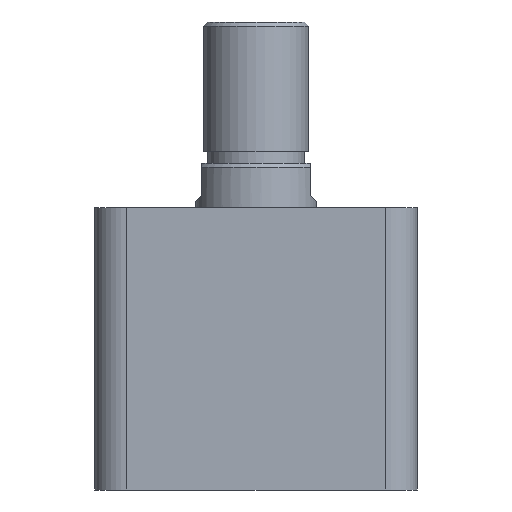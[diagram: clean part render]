
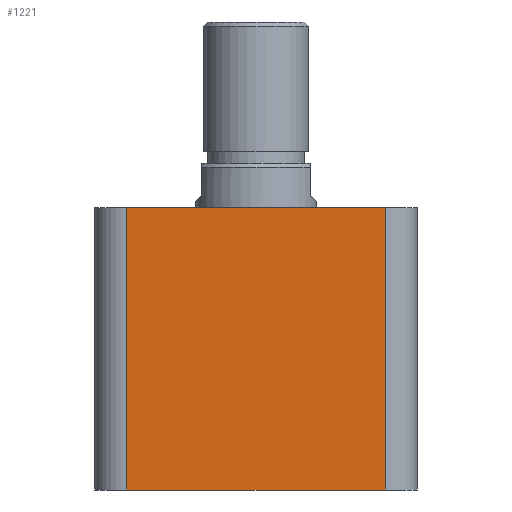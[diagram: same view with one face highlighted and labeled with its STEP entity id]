
A CAD part, front view. The second image highlights one B-rep face of the part: STEP entity #1221.
In plain terms, the highlighted planar face has unit normal (0, -1, 0).
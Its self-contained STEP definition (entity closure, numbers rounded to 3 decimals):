
#68 = VECTOR ( 'NONE', #2420, 1000. ) ;
#73 = LINE ( 'NONE', #2412, #68 ) ;
#82 = VECTOR ( 'NONE', #2448, 1000. ) ;
#84 = LINE ( 'NONE', #2444, #82 ) ;
#91 = VECTOR ( 'NONE', #2473, 1000. ) ;
#93 = LINE ( 'NONE', #2474, #91 ) ;
#99 = VECTOR ( 'NONE', #2498, 1000. ) ;
#101 = LINE ( 'NONE', #2500, #99 ) ;
#218 = AXIS2_PLACEMENT_3D ( 'NONE', #960, #950, #947 ) ;
#321 = ORIENTED_EDGE ( 'NONE', *, *, #1384, .F. ) ;
#322 = ORIENTED_EDGE ( 'NONE', *, *, #1391, .T. ) ;
#323 = ORIENTED_EDGE ( 'NONE', *, *, #1363, .T. ) ;
#324 = ORIENTED_EDGE ( 'NONE', *, *, #1400, .T. ) ;
#698 = VERTEX_POINT ( 'NONE', #1057 ) ;
#780 = VERTEX_POINT ( 'NONE', #1192 ) ;
#784 = VERTEX_POINT ( 'NONE', #1188 ) ;
#785 = VERTEX_POINT ( 'NONE', #1187 ) ;
#947 = DIRECTION ( 'NONE',  ( 0., 0., 1. ) ) ;
#950 = DIRECTION ( 'NONE',  ( 0., 1., 0. ) ) ;
#953 = PLANE ( 'NONE',  #218 ) ;
#960 = CARTESIAN_POINT ( 'NONE',  ( -40., -40., 70. ) ) ;
#1057 = CARTESIAN_POINT ( 'NONE',  ( -32., -40., 70. ) ) ;
#1187 = CARTESIAN_POINT ( 'NONE',  ( -32., -40., 0. ) ) ;
#1188 = CARTESIAN_POINT ( 'NONE',  ( 32., -40., 0. ) ) ;
#1192 = CARTESIAN_POINT ( 'NONE',  ( 32., -40., 70. ) ) ;
#1221 = ADVANCED_FACE ( 'NONE', ( #1789 ), #953, .F. ) ;
#1363 = EDGE_CURVE ( 'NONE', #785, #784, #101, .T. ) ;
#1384 = EDGE_CURVE ( 'NONE', #698, #780, #93, .T. ) ;
#1391 = EDGE_CURVE ( 'NONE', #698, #785, #84, .T. ) ;
#1400 = EDGE_CURVE ( 'NONE', #784, #780, #73, .T. ) ;
#1789 = FACE_OUTER_BOUND ( 'NONE', #1918, .T. ) ;
#1918 = EDGE_LOOP ( 'NONE', ( #321, #322, #323, #324 ) ) ;
#2412 = CARTESIAN_POINT ( 'NONE',  ( 32., -40., 70. ) ) ;
#2420 = DIRECTION ( 'NONE',  ( 0., 0., 1. ) ) ;
#2444 = CARTESIAN_POINT ( 'NONE',  ( -32., -40., 70. ) ) ;
#2448 = DIRECTION ( 'NONE',  ( 0., 0., -1. ) ) ;
#2473 = DIRECTION ( 'NONE',  ( 1., 0., 0. ) ) ;
#2474 = CARTESIAN_POINT ( 'NONE',  ( -40., -40., 70. ) ) ;
#2498 = DIRECTION ( 'NONE',  ( 1., 0., 0. ) ) ;
#2500 = CARTESIAN_POINT ( 'NONE',  ( -40., -40., 0. ) ) ;
